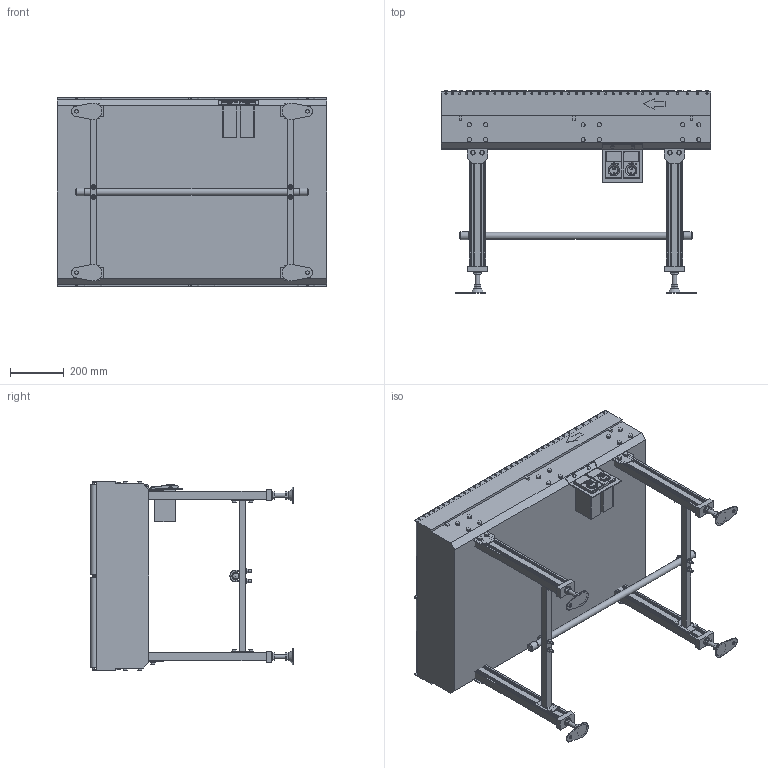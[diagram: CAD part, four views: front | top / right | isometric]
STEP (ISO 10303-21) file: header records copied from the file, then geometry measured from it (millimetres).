
FILE_DESCRIPTION (( 'STEP AP214' ), '1' );
FILE_NAME ('GA22-304x2-600-100-DC-7.5.STEP', '2024-08-08T23:10:38', ( '' ), ( '' ), 'SwSTEP 2.0', 'SolidWorks 2017', '' );
FILE_SCHEMA (( 'AUTOMOTIVE_DESIGN' ));
Length unit declared in the file: millimetre
Products named in the file (1): GA22-304x2-600-100-DC-7.5
Bounding box: 1000 x 750 x 703.81 mm (x, y, z)
Volume: 150211791.1 mm3; surface area: 4901089 mm2
Topology: 19 solids, 19 shells, 2025 faces, 5068 edges, 3372 vertices
Faces by surface type: plane 1444, cylinder 547, cone 18, torus 16
Full cylindrical faces by diameter (mm): 4.5 x8, 6 x70, 7 x4, 8 x140, 8.723 x8, 12.2 x2, 13 x4, 15.4 x40, 16 x8, 17 x12, 25.4 x1, 28.4 x2, 29.825 x2, 30 x4
Entity records: 57845 total; most frequent: CARTESIAN_POINT 11261, DIRECTION 9353, ORIENTED_EDGE 9154, EDGE_CURVE 4577, VECTOR 3269, LINE 3269, VERTEX_POINT 3212, AXIS2_PLACEMENT_3D 3042
